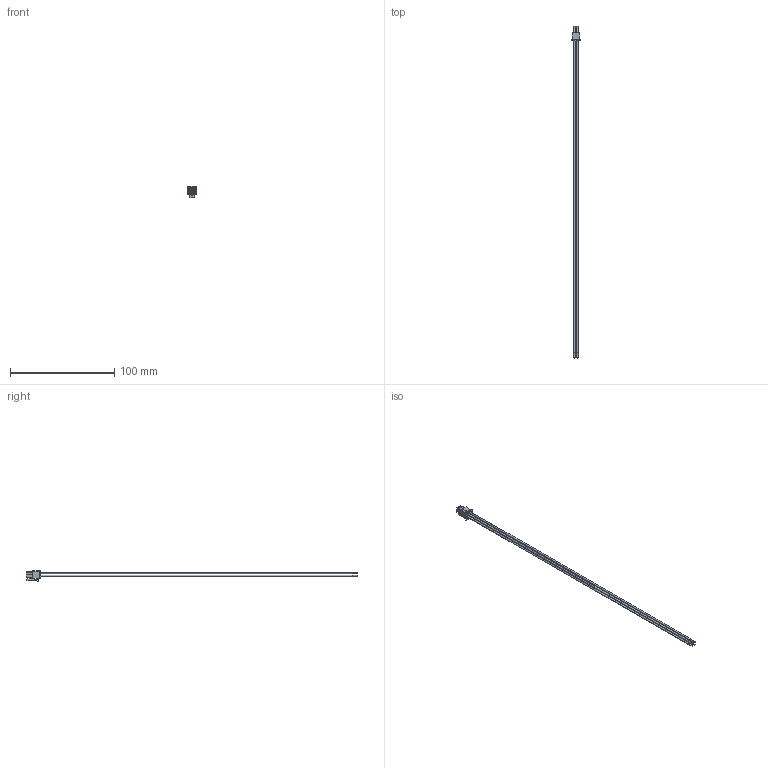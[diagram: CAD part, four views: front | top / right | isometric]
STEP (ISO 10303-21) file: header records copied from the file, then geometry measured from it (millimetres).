
FILE_DESCRIPTION((''),'2;1');
FILE_NAME('2147561042','2020-05-22T',('gga'),(''),'PRO/ENGINEER BY PARAMETRIC TECHNOLOGY CORPORATION, 2016010','PRO/ENGINEER BY PARAMETRIC TECHNOLOGY CORPORATION, 2016010','');
FILE_SCHEMA(('CONFIG_CONTROL_DESIGN'));
Length unit declared in the file: millimetre
Products named in the file (1): 2147561042
Bounding box: 8.27 x 319 x 10.83 mm (x, y, z)
Volume: 3303.5 mm3; surface area: 7308 mm2
Topology: 1 solids, 1 shells, 132 faces, 338 edges, 236 vertices
Faces by surface type: plane 108, cylinder 24
Entity records: 4002 total; most frequent: CARTESIAN_POINT 706, ORIENTED_EDGE 660, DIRECTION 648, EDGE_CURVE 330, VECTOR 290, LINE 290, VERTEX_POINT 220, AXIS2_PLACEMENT_3D 179
